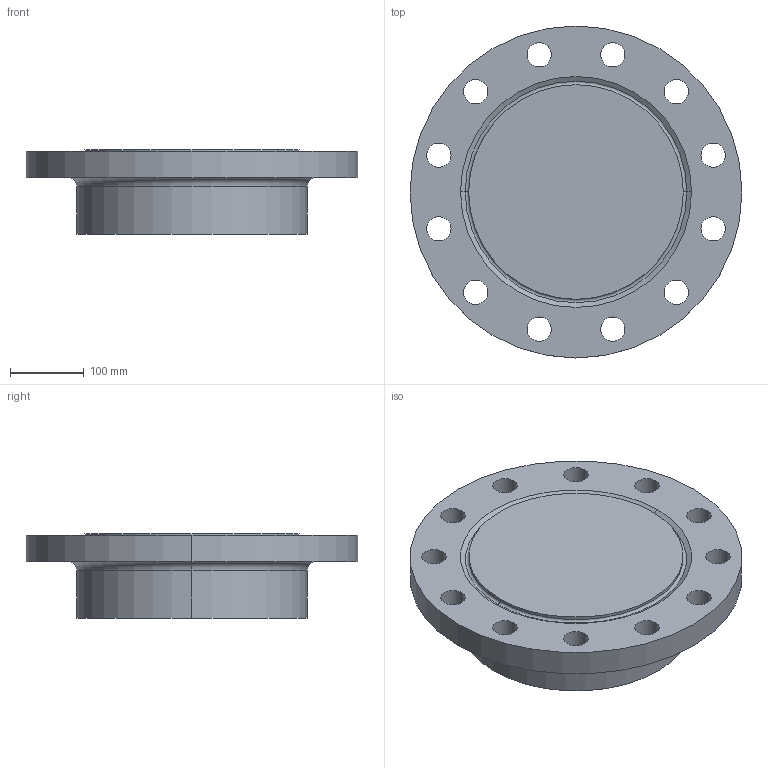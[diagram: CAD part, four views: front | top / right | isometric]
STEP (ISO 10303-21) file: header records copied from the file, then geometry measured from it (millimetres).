
FILE_DESCRIPTION (( 'STEP AP214' ), '1' );
FILE_NAME ('PN40 DN250 Type 21(i) - Type H Face.STEP', '2019-01-05T15:53:01', ( '' ), ( '' ), 'SwSTEP 2.0', 'SolidWorks 2019', '' );
FILE_SCHEMA (( 'AUTOMOTIVE_DESIGN' ));
Length unit declared in the file: millimetre
Products named in the file (1): PN40 DN250 Type 21(i) - Type H Face
Bounding box: 450 x 450 x 115 mm (x, y, z)
Volume: 11336113.8 mm3; surface area: 468832.9 mm2
Topology: 1 solids, 1 shells, 40 faces, 102 edges, 66 vertices
Faces by surface type: cylinder 30, torus 4, plane 4, cone 2
Entity records: 1330 total; most frequent: DIRECTION 254, CARTESIAN_POINT 209, ORIENTED_EDGE 204, AXIS2_PLACEMENT_3D 111, EDGE_CURVE 102, CIRCLE 70, EDGE_LOOP 66, VERTEX_POINT 66
